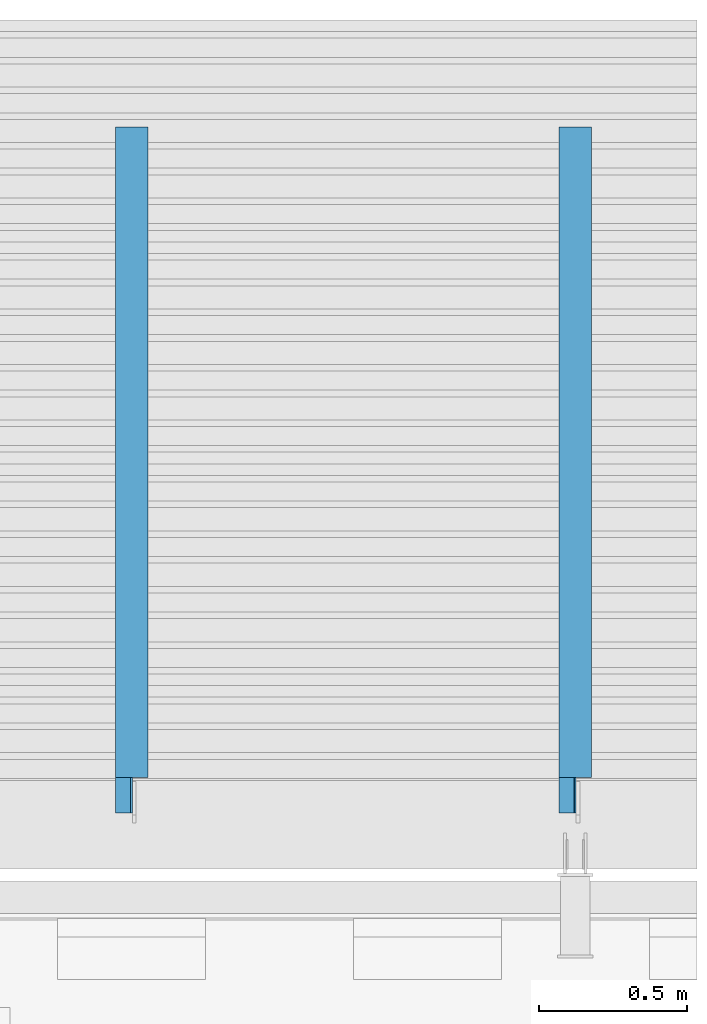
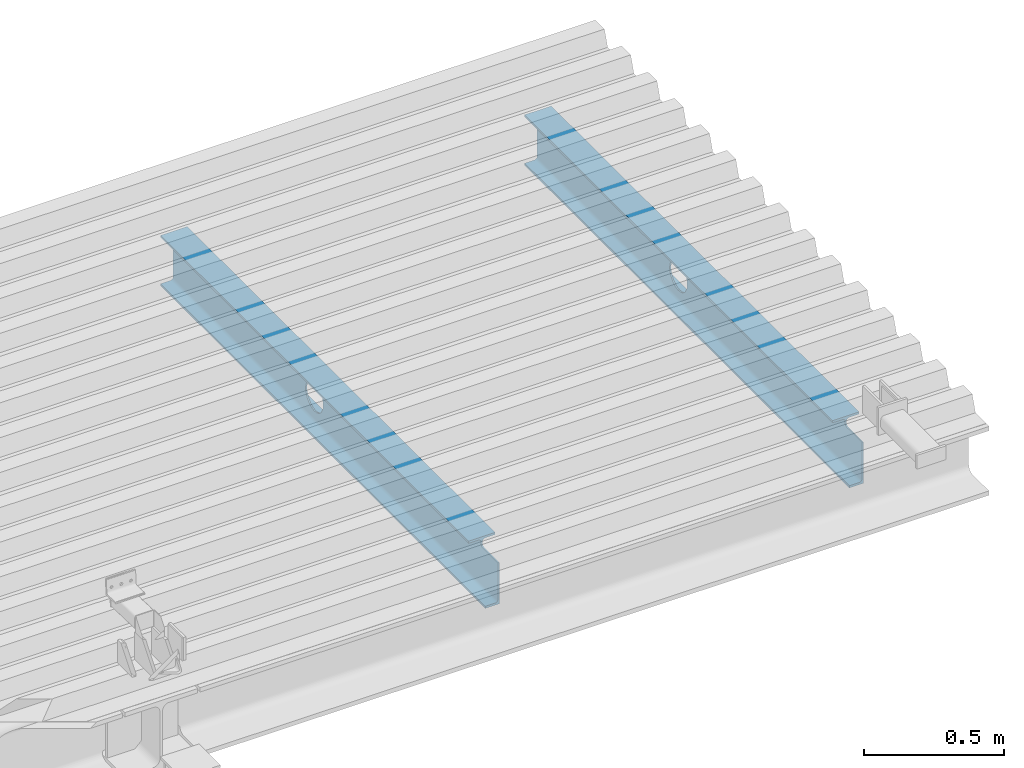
# One storey, part 29 of 34: 2 beams.
"""IFC2X3 building model written with IfcOpenShell, lengths in millimetres."""

from ifc_helpers import new_model, entity, si_unit, converted_unit, derived_unit, direction, frame, origin_with_axes, place, context, subcontext, project, spatial, faceted_brep, type_object, element, save


model = new_model("IFC2X3")

# Units and contexts
model_context = context("Model", 3, precision=0.01, world=frame((0.0, 4.29681676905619e-09, 0.0)), true_north=direction((4.01073788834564e-13, 1.0)))
plan_context = context("Plan", 3, precision=0.01, world=frame((0.0, 4.29681676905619e-09, 0.0)), true_north=direction((4.01073788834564e-13, 1.0)))
body_context = subcontext(model_context, "Body", "Model", "MODEL_VIEW")
ifc_project = project(units=[converted_unit("PLANEANGLEUNIT", "DEGREE", entity("IfcPositiveLengthMeasure", 0.0174532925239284), si_unit("PLANEANGLEUNIT", "RADIAN"), dimensions=[0, 0, 0, 0, 0, 0, 0]), si_unit("AREAUNIT", "SQUARE_METRE"), si_unit("LENGTHUNIT", "METRE", prefix="MILLI"), si_unit("MASSUNIT", "GRAM", prefix="KILO"), si_unit("POWERUNIT", "WATT"), si_unit("PRESSUREUNIT", "PASCAL"), si_unit("FORCEUNIT", "NEWTON", prefix="KILO"), si_unit("ELECTRICVOLTAGEUNIT", "VOLT"), si_unit("ELECTRICCURRENTUNIT", "AMPERE"), si_unit("THERMODYNAMICTEMPERATUREUNIT", "DEGREE_CELSIUS"), si_unit("TIMEUNIT", "SECOND"), si_unit("VOLUMEUNIT", "CUBIC_METRE"), derived_unit("LINEARVELOCITYUNIT", [(si_unit("LENGTHUNIT", "METRE"), 1), (si_unit("TIMEUNIT", "SECOND"), -1)]), derived_unit("VOLUMETRICFLOWRATEUNIT", [(si_unit("VOLUMEUNIT", "CUBIC_METRE"), 1), (si_unit("TIMEUNIT", "SECOND"), -1)]), derived_unit("THERMALTRANSMITTANCEUNIT", [(si_unit("POWERUNIT", "WATT"), 1), (si_unit("THERMODYNAMICTEMPERATUREUNIT", "KELVIN"), -1), (si_unit("AREAUNIT", "SQUARE_METRE"), -1)]), derived_unit("SOUNDPRESSUREUNIT", [(si_unit("PRESSUREUNIT", "PASCAL"), 1)])], contexts=[model_context, plan_context])

# Site, building, storey
site_placement = place(None, frame((0.0, -4.29681676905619e-09, 0.0), z_axis=(0.0, 0.0, 1.0), x_axis=(1.0, 0.0, 0.0)))
site = spatial("IfcSite", under=ifc_project, at=site_placement, Name="Gardermoen", CompositionType="ELEMENT")
building_placement = place(site_placement, frame((0.0, 4.29681676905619e-09, 0.0), z_axis=(0.0, 0.0, 1.0), x_axis=(1.0, 0.0, 0.0)))
building = spatial("IfcBuilding", under=site, at=building_placement, Name="TH", CompositionType="ELEMENT")
storey_placement = place(building_placement, origin_with_axes())
storey = spatial("IfcBuildingStorey", under=building, at=storey_placement, Name="F", CompositionType="ELEMENT", Elevation=0.0)

# Beams
beam_type = type_object("IfcBeamType", Name="IPE220", PredefinedType="NOTDEFINED")
beam_1_placement = place(storey_placement, frame((909999.999781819, 485029.995624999, 213310.0), z_axis=(0.0, 0.0, 1.0), x_axis=(0.0, 1.0, 0.0)))
element("IfcBeam", 1, at=beam_1_placement, inside=storey, type_object=beam_type, Name="STÅLBJELKE", ObjectType="IPE220", context=body_context, shape_type="Brep", body=[
    faceted_brep([(2327.65437500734, -55.0, -110.0), (2327.65437500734, 55.0, -110.0), (9.99999999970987, 55.0, -110.0), (9.99999999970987, -2.9500000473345, -110.0), (129.999999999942, -2.95000004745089, -110.0), (129.999999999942, -55.0, -110.0), (2327.65437500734, -55.0, -100.800000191), (129.999999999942, -55.0, -100.800000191), (2327.65437500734, -14.9500000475, -100.800000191), (129.999999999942, -14.9500000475, -100.800000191), (2327.65437500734, -12.6089161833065, -100.569423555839), (129.999999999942, -12.6089161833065, -100.569423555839), (2327.65437500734, -10.3577988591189, -99.8865545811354), (129.999999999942, -10.3577988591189, -99.8865545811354), (2327.65437500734, -8.28315725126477, -98.7776355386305), (129.999999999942, -8.28315725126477, -98.7776355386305), (2327.65437500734, -6.46471867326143, -97.2852815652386), (129.999999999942, -6.46471867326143, -97.2852815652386), (2327.65437500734, -4.97236469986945, -95.4668429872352), (129.999999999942, -4.97236469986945, -95.4668429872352), (2327.65437500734, -3.86344565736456, -93.3922013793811), (129.999999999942, -3.86344565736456, -93.3922013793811), (2327.65437500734, -3.18057668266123, -91.1410840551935), (129.999999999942, -3.18057668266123, -91.1410840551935), (2327.65437500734, -2.9500000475, -88.800000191), (129.999999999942, -2.96969830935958, -89.0), (9.99999999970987, -2.96969830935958, -89.0), (9.99999999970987, -2.9500000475, -88.800000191), (2327.65437500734, -2.9500000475, 88.800000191), (9.99999999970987, -2.9500000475, 70.0), (120.000000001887, -2.9500000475, 69.9999999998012), (121.564344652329, -2.9500000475, 70.1231165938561), (123.090169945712, -2.9500000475, 70.4894348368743), (124.539904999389, -2.9500000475, 71.0899347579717), (125.87785252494, -2.9500000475, 71.9098300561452), (127.071067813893, -2.9500000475, 72.9289321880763), (128.090169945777, -2.9500000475, 74.1221474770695), (128.910065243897, -2.9500000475, 75.4600950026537), (129.510565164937, -2.9500000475, 76.9098300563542), (129.876883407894, -2.9500000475, 78.4356553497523), (130.000000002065, -2.9500000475, 79.999999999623), (130.000000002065, -2.9500000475, 88.800000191), (1319.99999644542, -2.95000004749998, -62.4999973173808), (1330.28716071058, -2.95000004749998, -61.6475789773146), (1340.29371582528, -2.95000004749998, -59.113575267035), (1349.74671125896, -2.95000004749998, -54.9671072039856), (1358.38829393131, -2.95000004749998, -49.3212796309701), (1365.98274398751, -2.95000004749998, -42.3300960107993), (1372.32290462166, -2.95000004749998, -34.1842576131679), (1377.23583277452, -2.95000004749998, -25.1059616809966), (1380.58751656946, -2.95000004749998, -15.3428404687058), (1382.28653080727, -2.95000004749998, -5.16120647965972), (1382.28653080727, -2.95000004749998, 5.16121184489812), (1380.58751656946, -2.95000004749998, 15.3428458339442), (1377.23583277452, -2.95000004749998, 25.105967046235), (1372.32290462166, -2.95000004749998, 34.1842629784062), (1365.98274398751, -2.95000004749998, 42.3301013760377), (1358.38829393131, -2.95000004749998, 49.3212849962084), (1349.74671125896, -2.95000004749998, 54.9671125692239), (1340.29371582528, -2.95000004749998, 59.1135806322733), (1330.28716071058, -2.95000004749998, 61.6475843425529), (1319.99999866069, -2.95000004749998, 62.5000026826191), (1309.14699239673, -2.95000004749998, 61.5504878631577), (1298.62374438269, -2.95000004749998, 58.7307926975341), (1288.75000307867, -2.95000004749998, 54.1265921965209), (1279.82577711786, -2.95000004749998, 47.8777826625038), (1272.12222459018, -2.95000004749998, 40.1742310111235), (1265.87341404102, -2.95000004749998, 31.250005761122), (1261.26921241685, -2.95000004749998, 21.3762649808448), (1258.44951605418, -2.95000004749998, 10.8530172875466), (1257.50000000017, -2.95000004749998, 6.23736814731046e-06), (1258.44951481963, -2.95000004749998, -10.8530049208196), (1261.26920998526, -2.95000004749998, -21.3762529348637), (1265.87341048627, -2.95000004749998, -31.2499942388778), (1272.12222002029, -2.95000004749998, -40.1742201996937), (1279.82577167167, -2.95000004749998, -47.8777727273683), (1288.74999692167, -2.95000004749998, -54.1265832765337), (1298.62373770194, -2.95000004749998, -58.7307849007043), (1309.14698539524, -2.95000004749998, -61.5504812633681), (2327.65437500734, -3.18057668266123, 91.1410840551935), (130.000000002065, -3.18057668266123, 91.1410840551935), (2327.65437500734, -3.86344565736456, 93.3922013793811), (130.000000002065, -3.86344565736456, 93.3922013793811), (2327.65437500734, -4.97236469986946, 95.4668429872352), (130.000000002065, -4.97236469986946, 95.4668429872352), (2327.65437500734, -6.46471867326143, 97.2852815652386), (130.000000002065, -6.46471867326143, 97.2852815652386), (2327.65437500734, -8.28315725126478, 98.7776355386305), (130.000000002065, -8.28315725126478, 98.7776355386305), (2327.65437500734, -10.3577988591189, 99.8865545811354), (130.000000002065, -10.3577988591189, 99.8865545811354), (2327.65437500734, -12.6089161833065, 100.569423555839), (130.000000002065, -12.6089161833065, 100.569423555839), (2327.65437500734, -14.9500000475, 100.800000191), (130.000000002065, -14.9500000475, 100.800000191), (2327.65437500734, -55.0, 100.800000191), (130.000000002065, -55.0, 100.800000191), (2327.65437500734, -55.0, 110.0), (130.000000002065, -55.0, 110.0), (2327.65437500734, 55.0, 110.0), (130.000000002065, 55.0, 110.0), (2327.65437500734, 55.0, 100.800000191), (130.000000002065, 55.0, 100.800000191), (2327.65437500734, 14.9500000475, 100.800000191), (130.000000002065, 14.9500000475, 100.800000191), (2327.65437500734, 12.6089161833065, 100.569423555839), (130.000000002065, 12.6089161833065, 100.569423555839), (2327.65437500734, 10.3577988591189, 99.8865545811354), (130.000000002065, 10.3577988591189, 99.8865545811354), (2327.65437500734, 8.28315725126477, 98.7776355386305), (130.000000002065, 8.28315725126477, 98.7776355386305), (2327.65437500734, 6.46471867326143, 97.2852815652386), (130.000000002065, 6.46471867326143, 97.2852815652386), (2327.65437500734, 4.97236469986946, 95.4668429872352), (130.000000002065, 4.97236469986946, 95.4668429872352), (2327.65437500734, 3.86344565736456, 93.3922013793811), (130.000000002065, 3.86344565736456, 93.3922013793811), (2327.65437500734, 3.18057668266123, 91.1410840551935), (130.000000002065, 3.18057668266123, 91.1410840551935), (2327.65437500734, 2.9500000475, 88.800000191), (130.000000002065, 2.9500000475, 88.800000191), (2327.65437500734, 2.9500000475, -88.800000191), (130.000000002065, 2.95000004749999, 79.999999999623), (129.876883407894, 2.95000004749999, 78.4356553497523), (129.510565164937, 2.95000004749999, 76.9098300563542), (128.910065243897, 2.95000004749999, 75.4600950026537), (128.090169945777, 2.95000004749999, 74.1221474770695), (127.071067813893, 2.95000004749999, 72.9289321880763), (125.87785252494, 2.95000004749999, 71.9098300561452), (124.539904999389, 2.95000004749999, 71.0899347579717), (123.090169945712, 2.95000004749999, 70.4894348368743), (121.564344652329, 2.95000004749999, 70.1231165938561), (120.000000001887, 2.95000004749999, 69.9999999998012), (9.99999999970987, 2.9500000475, 70.0), (9.99999999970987, 2.9500000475, -88.800000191), (1330.28716071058, 2.95000004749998, -61.6475789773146), (1319.99999644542, 2.95000004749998, -62.4999973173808), (1309.14698539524, 2.95000004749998, -61.5504812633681), (1298.62373770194, 2.95000004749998, -58.7307849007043), (1288.74999692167, 2.95000004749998, -54.1265832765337), (1279.82577167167, 2.95000004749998, -47.8777727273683), (1272.12222002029, 2.95000004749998, -40.1742201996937), (1265.87341048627, 2.95000004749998, -31.2499942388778), (1261.26920998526, 2.95000004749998, -21.3762529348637), (1258.44951481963, 2.95000004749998, -10.8530049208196), (1257.50000000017, 2.95000004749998, 6.23736814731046e-06), (1258.44951605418, 2.95000004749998, 10.8530172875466), (1261.26921241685, 2.95000004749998, 21.3762649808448), (1265.87341404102, 2.95000004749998, 31.250005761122), (1272.12222459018, 2.95000004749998, 40.1742310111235), (1279.82577711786, 2.95000004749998, 47.8777826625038), (1288.75000307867, 2.95000004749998, 54.1265921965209), (1298.62374438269, 2.95000004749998, 58.7307926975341), (1309.14699239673, 2.95000004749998, 61.5504878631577), (1319.99999866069, 2.95000004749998, 62.5000026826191), (1330.28716071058, 2.95000004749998, 61.6475843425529), (1340.29371582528, 2.95000004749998, 59.1135806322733), (1349.74671125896, 2.95000004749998, 54.9671125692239), (1358.38829393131, 2.95000004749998, 49.3212849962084), (1365.98274398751, 2.95000004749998, 42.3301013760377), (1372.32290462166, 2.95000004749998, 34.1842629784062), (1377.23583277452, 2.95000004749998, 25.105967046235), (1380.58751656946, 2.95000004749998, 15.3428458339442), (1382.28653080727, 2.95000004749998, 5.16121184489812), (1382.28653080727, 2.95000004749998, -5.16120647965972), (1380.58751656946, 2.95000004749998, -15.3428404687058), (1377.23583277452, 2.95000004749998, -25.1059616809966), (1372.32290462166, 2.95000004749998, -34.1842576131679), (1365.98274398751, 2.95000004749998, -42.3300960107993), (1358.38829393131, 2.95000004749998, -49.3212796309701), (1349.74671125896, 2.95000004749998, -54.9671072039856), (1340.29371582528, 2.95000004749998, -59.113575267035), (2327.65437500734, 3.18057668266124, -91.1410840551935), (9.99999999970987, 3.18057668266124, -91.1410840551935), (2327.65437500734, 3.86344565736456, -93.3922013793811), (9.99999999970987, 3.86344565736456, -93.3922013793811), (2327.65437500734, 4.97236469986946, -95.4668429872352), (9.99999999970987, 4.97236469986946, -95.4668429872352), (2327.65437500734, 6.46471867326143, -97.2852815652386), (9.99999999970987, 6.46471867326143, -97.2852815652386), (2327.65437500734, 8.28315725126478, -98.7776355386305), (9.99999999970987, 8.28315725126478, -98.7776355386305), (2327.65437500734, 10.3577988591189, -99.8865545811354), (9.99999999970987, 10.3577988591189, -99.8865545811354), (2327.65437500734, 12.6089161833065, -100.569423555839), (9.99999999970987, 12.6089161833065, -100.569423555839), (2327.65437500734, 14.9500000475, -100.800000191), (9.99999999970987, 14.9500000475, -100.800000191), (2327.65437500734, 55.0, -100.800000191), (9.99999999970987, 55.0, -100.800000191), (129.999999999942, -2.95000004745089, -89.0), (9.99999999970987, -2.95000004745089, -89.0)], [[[0, 1, 2, 3, 4, 5]], [[6, 0, 5, 7]], [[8, 6, 7, 9]], [[10, 8, 9, 11]], [[12, 10, 11, 13]], [[14, 12, 13, 15]], [[16, 14, 15, 17]], [[18, 16, 17, 19]], [[20, 18, 19, 21]], [[22, 20, 21, 23]], [[24, 22, 23, 25, 26, 27]], [[28, 24, 27, 29, 30, 31, 32, 33, 34, 35, 36, 37, 38, 39, 40, 41], [42, 43, 44, 45, 46, 47, 48, 49, 50, 51, 52, 53, 54, 55, 56, 57, 58, 59, 60, 61, 62, 63, 64, 65, 66, 67, 68, 69, 70, 71, 72, 73, 74, 75, 76, 77, 78]], [[79, 28, 41, 80]], [[81, 79, 80, 82]], [[83, 81, 82, 84]], [[85, 83, 84, 86]], [[87, 85, 86, 88]], [[89, 87, 88, 90]], [[91, 89, 90, 92]], [[93, 91, 92, 94]], [[95, 93, 94, 96]], [[97, 95, 96, 98]], [[99, 97, 98, 100]], [[101, 99, 100, 102]], [[103, 101, 102, 104]], [[105, 103, 104, 106]], [[107, 105, 106, 108]], [[109, 107, 108, 110]], [[111, 109, 110, 112]], [[113, 111, 112, 114]], [[115, 113, 114, 116]], [[117, 115, 116, 118]], [[119, 117, 118, 120]], [[121, 119, 120, 122, 123, 124, 125, 126, 127, 128, 129, 130, 131, 132, 133, 134], [135, 136, 137, 138, 139, 140, 141, 142, 143, 144, 145, 146, 147, 148, 149, 150, 151, 152, 153, 154, 155, 156, 157, 158, 159, 160, 161, 162, 163, 164, 165, 166, 167, 168, 169, 170, 171]], [[172, 121, 134, 173]], [[174, 172, 173, 175]], [[176, 174, 175, 177]], [[178, 176, 177, 179]], [[180, 178, 179, 181]], [[182, 180, 181, 183]], [[184, 182, 183, 185]], [[186, 184, 185, 187]], [[188, 186, 187, 189]], [[1, 188, 189, 2]], [[43, 42, 136, 135]], [[42, 78, 137, 136]], [[78, 77, 138, 137]], [[77, 76, 139, 138]], [[76, 75, 140, 139]], [[75, 74, 141, 140]], [[74, 73, 142, 141]], [[73, 72, 143, 142]], [[72, 71, 144, 143]], [[71, 70, 145, 144]], [[70, 69, 146, 145]], [[69, 68, 147, 146]], [[68, 67, 148, 147]], [[67, 66, 149, 148]], [[66, 65, 150, 149]], [[65, 64, 151, 150]], [[64, 63, 152, 151]], [[63, 62, 153, 152]], [[62, 61, 154, 153]], [[61, 60, 155, 154]], [[60, 59, 156, 155]], [[59, 58, 157, 156]], [[58, 57, 158, 157]], [[57, 56, 159, 158]], [[56, 55, 160, 159]], [[55, 54, 161, 160]], [[54, 53, 162, 161]], [[53, 52, 163, 162]], [[52, 51, 164, 163]], [[51, 50, 165, 164]], [[50, 49, 166, 165]], [[49, 48, 167, 166]], [[48, 47, 168, 167]], [[47, 46, 169, 168]], [[46, 45, 170, 169]], [[45, 44, 171, 170]], [[44, 43, 135, 171]], [[190, 25, 23, 21, 19, 17, 15, 13, 11, 9, 7, 5, 4]], [[190, 191, 26, 25]], [[190, 4, 3, 191]], [[30, 29, 133, 132]], [[132, 131, 31, 30]], [[131, 130, 32, 31]], [[130, 129, 33, 32]], [[129, 128, 34, 33]], [[128, 127, 35, 34]], [[127, 126, 36, 35]], [[126, 125, 37, 36]], [[125, 124, 38, 37]], [[124, 123, 39, 38]], [[123, 122, 40, 39]], [[122, 120, 118, 116, 114, 112, 110, 108, 106, 104, 102, 100, 98, 96, 94, 92, 90, 88, 86, 84, 82, 80, 41, 40]], [[26, 191, 3, 2, 189, 187, 185, 183, 181, 179, 177, 175, 173, 134, 133, 29, 27]], [[6, 8, 10, 12, 14, 16, 18, 20, 22, 24, 28, 79, 81, 83, 85, 87, 89, 91, 93, 95, 97, 99, 101, 103, 105, 107, 109, 111, 113, 115, 117, 119, 121, 172, 174, 176, 178, 180, 182, 184, 186, 188, 1, 0]]], orient=[[False], [False], [False], [False], [False], [False], [False], [False], [False], [False], [False], [False, False], [False], [False], [False], [False], [False], [False], [False], [False], [False], [False], [False], [False], [False], [False], [False], [False], [False], [False], [False], [False], [False], [False, False], [False], [False], [False], [False], [False], [False], [False], [False], [False], [False], [False], [False], [False], [False], [False], [False], [False], [False], [False], [False], [False], [False], [False], [False], [False], [False], [False], [False], [False], [False], [False], [False], [False], [False], [False], [False], [False], [False], [False], [False], [False], [False], [False], [False], [False], [False], [False], [False], [False], [False], [False], [False], [False], [False], [False], [False], [False], [False], [False], [False], [False], [False], [False], [False]]),
])
beam_2_placement = place(storey_placement, frame((908499.999781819, 485029.995624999, 213310.0), z_axis=(0.0, 0.0, 1.0), x_axis=(0.0, 1.0, 0.0)))
element("IfcBeam", 2, at=beam_2_placement, inside=storey, type_object=beam_type, Name="STÅLBJELKE", ObjectType="IPE220", context=body_context, shape_type="Brep", body=[
    faceted_brep([(2327.65437500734, -55.0, -110.0), (2327.65437500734, 55.0, -110.0), (9.99999999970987, 55.0, -110.0), (9.99999999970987, -2.9500000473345, -110.0), (129.999999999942, -2.95000004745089, -110.0), (129.999999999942, -55.0, -110.0), (2327.65437500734, -55.0, -100.800000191), (129.999999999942, -55.0, -100.800000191), (2327.65437500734, -14.9500000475, -100.800000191), (129.999999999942, -14.9500000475, -100.800000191), (2327.65437500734, -12.6089161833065, -100.569423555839), (129.999999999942, -12.6089161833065, -100.569423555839), (2327.65437500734, -10.3577988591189, -99.8865545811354), (129.999999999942, -10.3577988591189, -99.8865545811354), (2327.65437500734, -8.28315725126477, -98.7776355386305), (129.999999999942, -8.28315725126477, -98.7776355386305), (2327.65437500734, -6.46471867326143, -97.2852815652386), (129.999999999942, -6.46471867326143, -97.2852815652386), (2327.65437500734, -4.97236469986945, -95.4668429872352), (129.999999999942, -4.97236469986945, -95.4668429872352), (2327.65437500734, -3.86344565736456, -93.3922013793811), (129.999999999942, -3.86344565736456, -93.3922013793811), (2327.65437500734, -3.18057668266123, -91.1410840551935), (129.999999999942, -3.18057668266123, -91.1410840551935), (2327.65437500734, -2.9500000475, -88.800000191), (129.999999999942, -2.96969830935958, -89.0), (9.99999999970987, -2.96969830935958, -89.0), (9.99999999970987, -2.9500000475, -88.800000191), (2327.65437500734, -2.9500000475, 88.800000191), (9.99999999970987, -2.9500000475, 70.0), (120.000000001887, -2.9500000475, 69.9999999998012), (121.564344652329, -2.9500000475, 70.1231165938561), (123.090169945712, -2.9500000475, 70.4894348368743), (124.539904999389, -2.9500000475, 71.0899347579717), (125.87785252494, -2.9500000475, 71.9098300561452), (127.071067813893, -2.9500000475, 72.9289321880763), (128.090169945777, -2.9500000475, 74.1221474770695), (128.910065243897, -2.9500000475, 75.4600950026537), (129.510565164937, -2.9500000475, 76.9098300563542), (129.876883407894, -2.9500000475, 78.4356553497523), (130.000000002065, -2.9500000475, 79.999999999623), (130.000000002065, -2.9500000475, 88.800000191), (1319.99999644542, -2.95000004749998, -62.4999973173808), (1330.28716071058, -2.95000004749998, -61.6475789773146), (1340.29371582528, -2.95000004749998, -59.113575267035), (1349.74671125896, -2.95000004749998, -54.9671072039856), (1358.38829393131, -2.95000004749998, -49.3212796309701), (1365.98274398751, -2.95000004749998, -42.3300960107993), (1372.32290462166, -2.95000004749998, -34.1842576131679), (1377.23583277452, -2.95000004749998, -25.1059616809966), (1380.58751656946, -2.95000004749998, -15.3428404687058), (1382.28653080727, -2.95000004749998, -5.16120647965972), (1382.28653080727, -2.95000004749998, 5.16121184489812), (1380.58751656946, -2.95000004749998, 15.3428458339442), (1377.23583277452, -2.95000004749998, 25.105967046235), (1372.32290462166, -2.95000004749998, 34.1842629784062), (1365.98274398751, -2.95000004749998, 42.3301013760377), (1358.38829393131, -2.95000004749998, 49.3212849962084), (1349.74671125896, -2.95000004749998, 54.9671125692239), (1340.29371582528, -2.95000004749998, 59.1135806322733), (1330.28716071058, -2.95000004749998, 61.6475843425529), (1319.99999866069, -2.95000004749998, 62.5000026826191), (1309.14699239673, -2.95000004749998, 61.5504878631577), (1298.62374438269, -2.95000004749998, 58.7307926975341), (1288.75000307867, -2.95000004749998, 54.1265921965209), (1279.82577711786, -2.95000004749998, 47.8777826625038), (1272.12222459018, -2.95000004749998, 40.1742310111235), (1265.87341404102, -2.95000004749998, 31.250005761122), (1261.26921241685, -2.95000004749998, 21.3762649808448), (1258.44951605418, -2.95000004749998, 10.8530172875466), (1257.50000000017, -2.95000004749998, 6.23736814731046e-06), (1258.44951481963, -2.95000004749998, -10.8530049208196), (1261.26920998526, -2.95000004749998, -21.3762529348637), (1265.87341048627, -2.95000004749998, -31.2499942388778), (1272.12222002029, -2.95000004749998, -40.1742201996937), (1279.82577167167, -2.95000004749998, -47.8777727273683), (1288.74999692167, -2.95000004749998, -54.1265832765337), (1298.62373770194, -2.95000004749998, -58.7307849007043), (1309.14698539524, -2.95000004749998, -61.5504812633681), (2327.65437500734, -3.18057668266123, 91.1410840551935), (130.000000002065, -3.18057668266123, 91.1410840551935), (2327.65437500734, -3.86344565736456, 93.3922013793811), (130.000000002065, -3.86344565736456, 93.3922013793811), (2327.65437500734, -4.97236469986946, 95.4668429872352), (130.000000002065, -4.97236469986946, 95.4668429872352), (2327.65437500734, -6.46471867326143, 97.2852815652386), (130.000000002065, -6.46471867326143, 97.2852815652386), (2327.65437500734, -8.28315725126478, 98.7776355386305), (130.000000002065, -8.28315725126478, 98.7776355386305), (2327.65437500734, -10.3577988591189, 99.8865545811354), (130.000000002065, -10.3577988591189, 99.8865545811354), (2327.65437500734, -12.6089161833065, 100.569423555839), (130.000000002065, -12.6089161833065, 100.569423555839), (2327.65437500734, -14.9500000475, 100.800000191), (130.000000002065, -14.9500000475, 100.800000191), (2327.65437500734, -55.0, 100.800000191), (130.000000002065, -55.0, 100.800000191), (2327.65437500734, -55.0, 110.0), (130.000000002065, -55.0, 110.0), (2327.65437500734, 55.0, 110.0), (130.000000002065, 55.0, 110.0), (2327.65437500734, 55.0, 100.800000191), (130.000000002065, 55.0, 100.800000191), (2327.65437500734, 14.9500000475, 100.800000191), (130.000000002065, 14.9500000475, 100.800000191), (2327.65437500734, 12.6089161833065, 100.569423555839), (130.000000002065, 12.6089161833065, 100.569423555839), (2327.65437500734, 10.3577988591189, 99.8865545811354), (130.000000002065, 10.3577988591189, 99.8865545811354), (2327.65437500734, 8.28315725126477, 98.7776355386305), (130.000000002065, 8.28315725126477, 98.7776355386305), (2327.65437500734, 6.46471867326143, 97.2852815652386), (130.000000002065, 6.46471867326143, 97.2852815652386), (2327.65437500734, 4.97236469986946, 95.4668429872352), (130.000000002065, 4.97236469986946, 95.4668429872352), (2327.65437500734, 3.86344565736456, 93.3922013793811), (130.000000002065, 3.86344565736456, 93.3922013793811), (2327.65437500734, 3.18057668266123, 91.1410840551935), (130.000000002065, 3.18057668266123, 91.1410840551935), (2327.65437500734, 2.9500000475, 88.800000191), (130.000000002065, 2.9500000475, 88.800000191), (2327.65437500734, 2.9500000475, -88.800000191), (130.000000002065, 2.95000004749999, 79.999999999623), (129.876883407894, 2.95000004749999, 78.4356553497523), (129.510565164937, 2.95000004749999, 76.9098300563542), (128.910065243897, 2.95000004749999, 75.4600950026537), (128.090169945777, 2.95000004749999, 74.1221474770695), (127.071067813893, 2.95000004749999, 72.9289321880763), (125.87785252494, 2.95000004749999, 71.9098300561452), (124.539904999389, 2.95000004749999, 71.0899347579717), (123.090169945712, 2.95000004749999, 70.4894348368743), (121.564344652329, 2.95000004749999, 70.1231165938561), (120.000000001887, 2.95000004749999, 69.9999999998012), (9.99999999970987, 2.9500000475, 70.0), (9.99999999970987, 2.9500000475, -88.800000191), (1330.28716071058, 2.95000004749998, -61.6475789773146), (1319.99999644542, 2.95000004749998, -62.4999973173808), (1309.14698539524, 2.95000004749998, -61.5504812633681), (1298.62373770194, 2.95000004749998, -58.7307849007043), (1288.74999692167, 2.95000004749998, -54.1265832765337), (1279.82577167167, 2.95000004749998, -47.8777727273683), (1272.12222002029, 2.95000004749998, -40.1742201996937), (1265.87341048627, 2.95000004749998, -31.2499942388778), (1261.26920998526, 2.95000004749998, -21.3762529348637), (1258.44951481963, 2.95000004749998, -10.8530049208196), (1257.50000000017, 2.95000004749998, 6.23736814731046e-06), (1258.44951605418, 2.95000004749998, 10.8530172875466), (1261.26921241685, 2.95000004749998, 21.3762649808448), (1265.87341404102, 2.95000004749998, 31.250005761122), (1272.12222459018, 2.95000004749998, 40.1742310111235), (1279.82577711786, 2.95000004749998, 47.8777826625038), (1288.75000307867, 2.95000004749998, 54.1265921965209), (1298.62374438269, 2.95000004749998, 58.7307926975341), (1309.14699239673, 2.95000004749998, 61.5504878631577), (1319.99999866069, 2.95000004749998, 62.5000026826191), (1330.28716071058, 2.95000004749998, 61.6475843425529), (1340.29371582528, 2.95000004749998, 59.1135806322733), (1349.74671125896, 2.95000004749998, 54.9671125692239), (1358.38829393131, 2.95000004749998, 49.3212849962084), (1365.98274398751, 2.95000004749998, 42.3301013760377), (1372.32290462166, 2.95000004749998, 34.1842629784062), (1377.23583277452, 2.95000004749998, 25.105967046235), (1380.58751656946, 2.95000004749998, 15.3428458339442), (1382.28653080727, 2.95000004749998, 5.16121184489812), (1382.28653080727, 2.95000004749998, -5.16120647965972), (1380.58751656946, 2.95000004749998, -15.3428404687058), (1377.23583277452, 2.95000004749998, -25.1059616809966), (1372.32290462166, 2.95000004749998, -34.1842576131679), (1365.98274398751, 2.95000004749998, -42.3300960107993), (1358.38829393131, 2.95000004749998, -49.3212796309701), (1349.74671125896, 2.95000004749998, -54.9671072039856), (1340.29371582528, 2.95000004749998, -59.113575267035), (2327.65437500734, 3.18057668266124, -91.1410840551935), (9.99999999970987, 3.18057668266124, -91.1410840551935), (2327.65437500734, 3.86344565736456, -93.3922013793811), (9.99999999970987, 3.86344565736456, -93.3922013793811), (2327.65437500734, 4.97236469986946, -95.4668429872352), (9.99999999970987, 4.97236469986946, -95.4668429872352), (2327.65437500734, 6.46471867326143, -97.2852815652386), (9.99999999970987, 6.46471867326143, -97.2852815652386), (2327.65437500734, 8.28315725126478, -98.7776355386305), (9.99999999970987, 8.28315725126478, -98.7776355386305), (2327.65437500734, 10.3577988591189, -99.8865545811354), (9.99999999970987, 10.3577988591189, -99.8865545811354), (2327.65437500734, 12.6089161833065, -100.569423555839), (9.99999999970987, 12.6089161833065, -100.569423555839), (2327.65437500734, 14.9500000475, -100.800000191), (9.99999999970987, 14.9500000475, -100.800000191), (2327.65437500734, 55.0, -100.800000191), (9.99999999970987, 55.0, -100.800000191), (129.999999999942, -2.95000004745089, -89.0), (9.99999999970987, -2.95000004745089, -89.0)], [[[0, 1, 2, 3, 4, 5]], [[6, 0, 5, 7]], [[8, 6, 7, 9]], [[10, 8, 9, 11]], [[12, 10, 11, 13]], [[14, 12, 13, 15]], [[16, 14, 15, 17]], [[18, 16, 17, 19]], [[20, 18, 19, 21]], [[22, 20, 21, 23]], [[24, 22, 23, 25, 26, 27]], [[28, 24, 27, 29, 30, 31, 32, 33, 34, 35, 36, 37, 38, 39, 40, 41], [42, 43, 44, 45, 46, 47, 48, 49, 50, 51, 52, 53, 54, 55, 56, 57, 58, 59, 60, 61, 62, 63, 64, 65, 66, 67, 68, 69, 70, 71, 72, 73, 74, 75, 76, 77, 78]], [[79, 28, 41, 80]], [[81, 79, 80, 82]], [[83, 81, 82, 84]], [[85, 83, 84, 86]], [[87, 85, 86, 88]], [[89, 87, 88, 90]], [[91, 89, 90, 92]], [[93, 91, 92, 94]], [[95, 93, 94, 96]], [[97, 95, 96, 98]], [[99, 97, 98, 100]], [[101, 99, 100, 102]], [[103, 101, 102, 104]], [[105, 103, 104, 106]], [[107, 105, 106, 108]], [[109, 107, 108, 110]], [[111, 109, 110, 112]], [[113, 111, 112, 114]], [[115, 113, 114, 116]], [[117, 115, 116, 118]], [[119, 117, 118, 120]], [[121, 119, 120, 122, 123, 124, 125, 126, 127, 128, 129, 130, 131, 132, 133, 134], [135, 136, 137, 138, 139, 140, 141, 142, 143, 144, 145, 146, 147, 148, 149, 150, 151, 152, 153, 154, 155, 156, 157, 158, 159, 160, 161, 162, 163, 164, 165, 166, 167, 168, 169, 170, 171]], [[172, 121, 134, 173]], [[174, 172, 173, 175]], [[176, 174, 175, 177]], [[178, 176, 177, 179]], [[180, 178, 179, 181]], [[182, 180, 181, 183]], [[184, 182, 183, 185]], [[186, 184, 185, 187]], [[188, 186, 187, 189]], [[1, 188, 189, 2]], [[43, 42, 136, 135]], [[42, 78, 137, 136]], [[78, 77, 138, 137]], [[77, 76, 139, 138]], [[76, 75, 140, 139]], [[75, 74, 141, 140]], [[74, 73, 142, 141]], [[73, 72, 143, 142]], [[72, 71, 144, 143]], [[71, 70, 145, 144]], [[70, 69, 146, 145]], [[69, 68, 147, 146]], [[68, 67, 148, 147]], [[67, 66, 149, 148]], [[66, 65, 150, 149]], [[65, 64, 151, 150]], [[64, 63, 152, 151]], [[63, 62, 153, 152]], [[62, 61, 154, 153]], [[61, 60, 155, 154]], [[60, 59, 156, 155]], [[59, 58, 157, 156]], [[58, 57, 158, 157]], [[57, 56, 159, 158]], [[56, 55, 160, 159]], [[55, 54, 161, 160]], [[54, 53, 162, 161]], [[53, 52, 163, 162]], [[52, 51, 164, 163]], [[51, 50, 165, 164]], [[50, 49, 166, 165]], [[49, 48, 167, 166]], [[48, 47, 168, 167]], [[47, 46, 169, 168]], [[46, 45, 170, 169]], [[45, 44, 171, 170]], [[44, 43, 135, 171]], [[190, 25, 23, 21, 19, 17, 15, 13, 11, 9, 7, 5, 4]], [[190, 191, 26, 25]], [[190, 4, 3, 191]], [[30, 29, 133, 132]], [[132, 131, 31, 30]], [[131, 130, 32, 31]], [[130, 129, 33, 32]], [[129, 128, 34, 33]], [[128, 127, 35, 34]], [[127, 126, 36, 35]], [[126, 125, 37, 36]], [[125, 124, 38, 37]], [[124, 123, 39, 38]], [[123, 122, 40, 39]], [[122, 120, 118, 116, 114, 112, 110, 108, 106, 104, 102, 100, 98, 96, 94, 92, 90, 88, 86, 84, 82, 80, 41, 40]], [[26, 191, 3, 2, 189, 187, 185, 183, 181, 179, 177, 175, 173, 134, 133, 29, 27]], [[6, 8, 10, 12, 14, 16, 18, 20, 22, 24, 28, 79, 81, 83, 85, 87, 89, 91, 93, 95, 97, 99, 101, 103, 105, 107, 109, 111, 113, 115, 117, 119, 121, 172, 174, 176, 178, 180, 182, 184, 186, 188, 1, 0]]], orient=[[False], [False], [False], [False], [False], [False], [False], [False], [False], [False], [False], [False, False], [False], [False], [False], [False], [False], [False], [False], [False], [False], [False], [False], [False], [False], [False], [False], [False], [False], [False], [False], [False], [False], [False, False], [False], [False], [False], [False], [False], [False], [False], [False], [False], [False], [False], [False], [False], [False], [False], [False], [False], [False], [False], [False], [False], [False], [False], [False], [False], [False], [False], [False], [False], [False], [False], [False], [False], [False], [False], [False], [False], [False], [False], [False], [False], [False], [False], [False], [False], [False], [False], [False], [False], [False], [False], [False], [False], [False], [False], [False], [False], [False], [False], [False], [False], [False], [False], [False]]),
])

save(model, "model.ifc")
